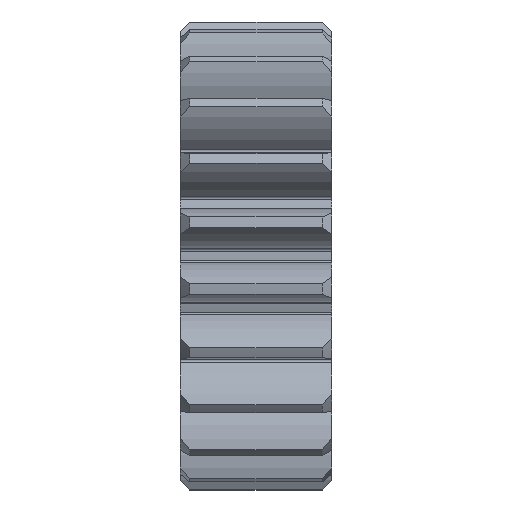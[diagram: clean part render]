
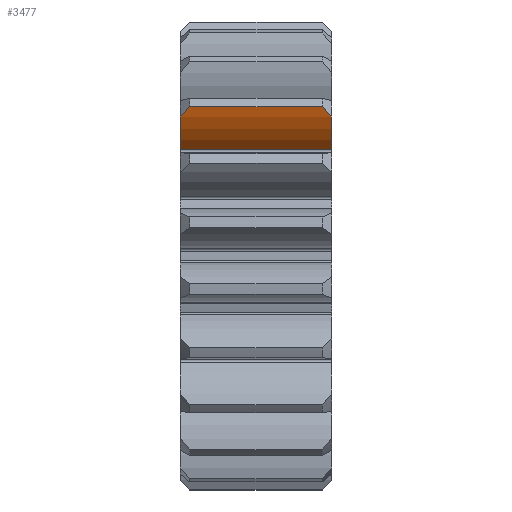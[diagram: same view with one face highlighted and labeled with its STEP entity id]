
A CAD part, top view. The second image highlights one B-rep face of the part: STEP entity #3477.
In plain terms, the highlighted cylindrical face has radius 9.281 mm (diameter 18.563 mm), a partial arc.
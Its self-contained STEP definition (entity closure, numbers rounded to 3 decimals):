
#135=B_SPLINE_CURVE_WITH_KNOTS('',3,(#6371,#6372,#6373,#6374),
 .UNSPECIFIED.,.F.,.F.,(4,4),(1.387,1.533),
 .UNSPECIFIED.);
#136=B_SPLINE_CURVE_WITH_KNOTS('',3,(#6377,#6378,#6379,#6380),
 .UNSPECIFIED.,.F.,.F.,(4,4),(4.193,4.34),
 .UNSPECIFIED.);
#224=CYLINDRICAL_SURFACE('',#3900,9.282);
#397=CIRCLE('',#3721,9.282);
#498=CIRCLE('',#3901,9.282);
#688=FACE_OUTER_BOUND('',#882,.T.);
#882=EDGE_LOOP('',(#2806,#2807,#2808,#2809,#2810,#2811));
#1129=LINE('',#6365,#1289);
#1131=LINE('',#6376,#1291);
#1289=VECTOR('',#4839,10.);
#1291=VECTOR('',#4845,10.);
#1429=VERTEX_POINT('',#5532);
#1430=VERTEX_POINT('',#5534);
#1652=VERTEX_POINT('',#6363);
#1653=VERTEX_POINT('',#6368);
#1654=VERTEX_POINT('',#6370);
#1655=VERTEX_POINT('',#6375);
#1811=EDGE_CURVE('',#1430,#1429,#397,.T.);
#2111=EDGE_CURVE('',#1652,#1429,#1129,.T.);
#2113=EDGE_CURVE('',#1653,#1652,#498,.T.);
#2114=EDGE_CURVE('',#1653,#1654,#135,.T.);
#2115=EDGE_CURVE('',#1654,#1655,#1131,.T.);
#2116=EDGE_CURVE('',#1655,#1430,#136,.T.);
#2806=ORIENTED_EDGE('',*,*,#2111,.F.);
#2807=ORIENTED_EDGE('',*,*,#2113,.F.);
#2808=ORIENTED_EDGE('',*,*,#2114,.T.);
#2809=ORIENTED_EDGE('',*,*,#2115,.T.);
#2810=ORIENTED_EDGE('',*,*,#2116,.T.);
#2811=ORIENTED_EDGE('',*,*,#1811,.T.);
#3477=ADVANCED_FACE('',(#688),#224,.T.);
#3721=AXIS2_PLACEMENT_3D('',#5535,#4360,#4361);
#3900=AXIS2_PLACEMENT_3D('',#6367,#4841,#4842);
#3901=AXIS2_PLACEMENT_3D('',#6369,#4843,#4844);
#4360=DIRECTION('center_axis',(1.,0.,0.));
#4361=DIRECTION('ref_axis',(0.,-0.276,0.961));
#4839=DIRECTION('',(-1.,0.,0.));
#4841=DIRECTION('center_axis',(-1.,0.,0.));
#4842=DIRECTION('ref_axis',(0.,-0.276,0.961));
#4843=DIRECTION('center_axis',(1.,0.,0.));
#4844=DIRECTION('ref_axis',(0.,-0.276,0.961));
#4845=DIRECTION('',(-1.,0.,0.));
#5532=CARTESIAN_POINT('',(-8.,11.276,16.182));
#5534=CARTESIAN_POINT('',(-8.,14.668,18.68));
#5535=CARTESIAN_POINT('Origin',(-8.,18.332,10.152));
#6363=CARTESIAN_POINT('',(8.,11.276,16.182));
#6365=CARTESIAN_POINT('',(0.,11.276,16.182));
#6367=CARTESIAN_POINT('Origin',(8.,18.332,10.152));
#6368=CARTESIAN_POINT('',(8.,14.668,18.68));
#6369=CARTESIAN_POINT('Origin',(8.,18.332,10.152));
#6370=CARTESIAN_POINT('',(7.,15.772,19.074));
#6371=CARTESIAN_POINT('Ctrl Pts',(8.,14.668,18.68));
#6372=CARTESIAN_POINT('Ctrl Pts',(7.659,15.024,18.833));
#6373=CARTESIAN_POINT('Ctrl Pts',(7.325,15.393,18.965));
#6374=CARTESIAN_POINT('Ctrl Pts',(7.,15.772,19.074));
#6375=CARTESIAN_POINT('',(-7.,15.772,19.074));
#6376=CARTESIAN_POINT('',(8.,15.772,19.074));
#6377=CARTESIAN_POINT('Ctrl Pts',(-7.,15.772,19.074));
#6378=CARTESIAN_POINT('Ctrl Pts',(-7.325,15.393,18.965));
#6379=CARTESIAN_POINT('Ctrl Pts',(-7.659,15.024,18.833));
#6380=CARTESIAN_POINT('Ctrl Pts',(-8.,14.668,18.68));
